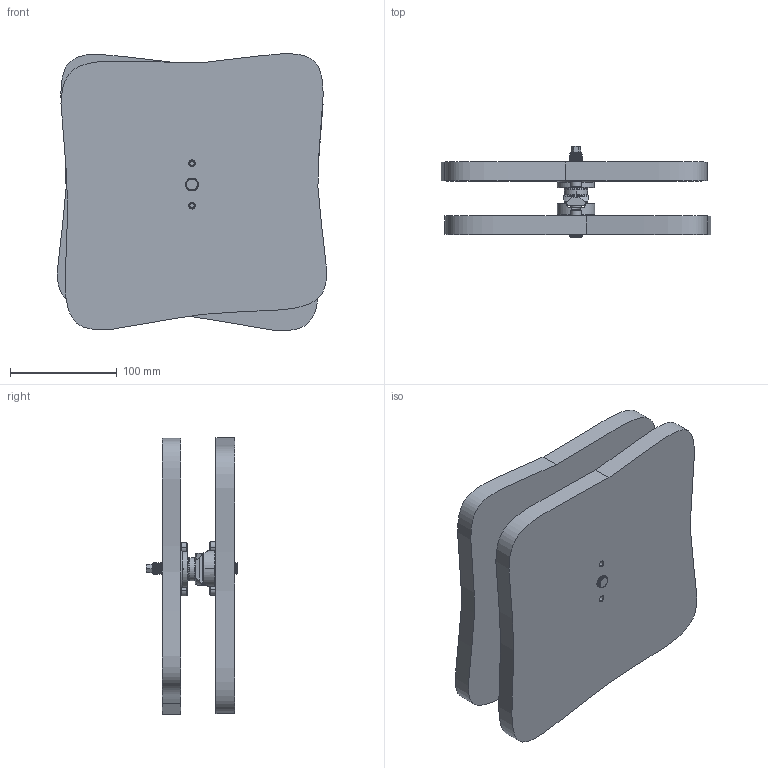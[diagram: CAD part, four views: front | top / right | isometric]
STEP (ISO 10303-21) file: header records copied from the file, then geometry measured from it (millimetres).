
FILE_DESCRIPTION (( 'STEP AP214' ), '1' );
FILE_NAME ('SPH25-aLGC Legacy Stack.M12.STEP', '2025-05-19T07:01:01', ( '' ), ( '' ), 'SwSTEP 2.0', 'SolidWorks 2022', '' );
FILE_SCHEMA (( 'AUTOMOTIVE_DESIGN' ));
Length unit declared in the file: millimetre
Products named in the file (15): SPH25h-PGen Generic Baseplate_Legacy V side; SPH25-BV Vee Block_grinding; SPH25-aLGC-NUT Legacy NUT_Through; SPH25-aLGC-TOP Legacy Top_Through; SPH25g-GEOMETRY; SPH25-BC Cone Block_grinding; SPH25h-SEL Legacy External Screw MCM_92290A312 M6x8.0 Super-Corrosion-Resistant 316 Stainless Steel Socket Head Screw_92290A312; SPH25-RTS Retainer Straighty_Through; SPH25h-WBl Belleville Washer MCM_9713K449 0.531x1.5x0.095 Corrosion-Resistant Belleville Disc Spring_9713K449; SPH25h-PC Slotted Spring Pin MCM_91610A599 M5x10.0 18-8 STAINLESS STEEL SLOTTED SPRING PIN_Closed; SPH25-SP Spherolinder_Grinding ; SPH25-aLGC-BTM Legacy Bottom_Through; SPH25h-PGen Generic Baseplate_Legacy C side; SPH25-aLGC Legacy Stack.M12; SPH25h-RR Retaining Ring MCM_91650A350 .409x.035x.025 Heavy Duty Spiral External Retaining Ring_91650A350
Assembly tree (19 placements, depth 3):
  SPH25g-GEOMETRY
  SPH25-aLGC Legacy Stack.M12
    SPH25-aLGC-BTM Legacy Bottom_Through
      SPH25-BV Vee Block_grinding
      SPH25-SP Spherolinder_Grinding 
      SPH25-RTS Retainer Straighty_Through
      SPH25h-SEL Legacy External Screw MCM_92290A312 M6x8.0 Super-Corrosion-Resistant 316 Stainless Steel Socket Head Screw_92290A312  x2
      SPH25h-PC Slotted Spring Pin MCM_91610A599 M5x10.0 18-8 STAINLESS STEEL SLOTTED SPRING PIN_Closed  x2
      SPH25h-PGen Generic Baseplate_Legacy V side
      SPH25h-RR Retaining Ring MCM_91650A350 .409x.035x.025 Heavy Duty Spiral External Retaining Ring_91650A350
    SPH25-aLGC-TOP Legacy Top_Through
      SPH25-BC Cone Block_grinding
      SPH25h-SEL Legacy External Screw MCM_92290A312 M6x8.0 Super-Corrosion-Resistant 316 Stainless Steel Socket Head Screw_92290A312  x2
      SPH25h-PC Slotted Spring Pin MCM_91610A599 M5x10.0 18-8 STAINLESS STEEL SLOTTED SPRING PIN_Closed  x2
      SPH25h-PGen Generic Baseplate_Legacy C side
    SPH25-aLGC-NUT Legacy NUT_Through
      SPH25h-WBl Belleville Washer MCM_9713K449 0.531x1.5x0.095 Corrosion-Resistant Belleville Disc Spring_9713K449
Bounding box: 253 x 86 x 259.76 mm (x, y, z)
Volume: 2035864.5 mm3; surface area: 287597.3 mm2
Topology: 16 solids, 16 shells, 778 faces, 1948 edges, 1219 vertices
Faces by surface type: cylinder 383, cone 160, plane 124, bspline 54, torus 53, sphere 4
Entity records: 26503 total; most frequent: CARTESIAN_POINT 13116, ORIENTED_EDGE 2802, DIRECTION 2538, EDGE_CURVE 1401, AXIS2_PLACEMENT_3D 1054, VERTEX_POINT 877, EDGE_LOOP 612, ADVANCED_FACE 562
